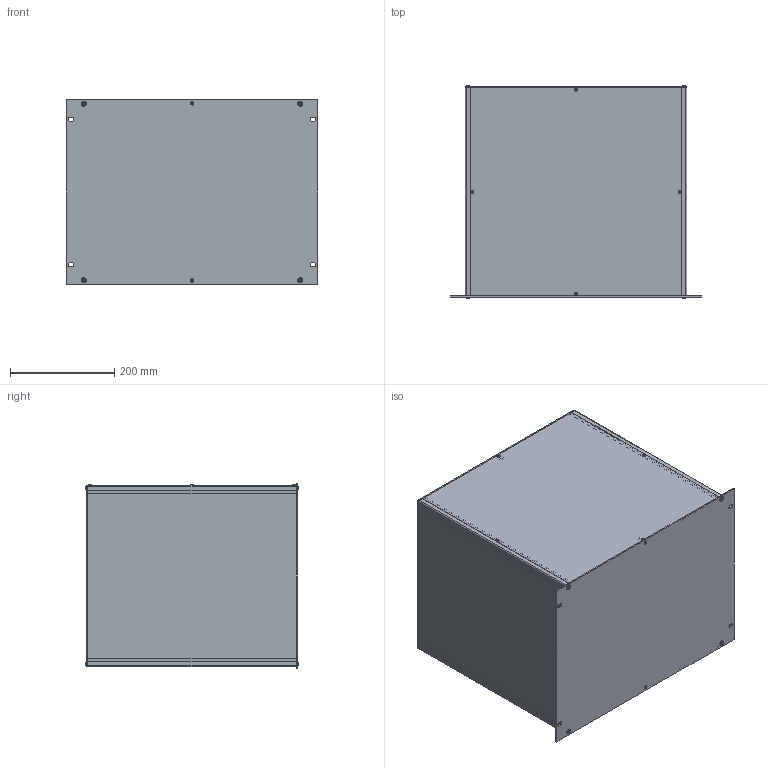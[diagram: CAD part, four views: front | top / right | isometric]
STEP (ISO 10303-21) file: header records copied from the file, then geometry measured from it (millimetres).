
FILE_DESCRIPTION(/* description */ (''),/* implementation_level */ '2;1');
FILE_NAME(/* name */ '//diskstation/Kunden/Gehäuse/Gehäuse/8HE/step/19 Zoll 8HE Rack Gehäuse Tiefe-400.step',/* time_stamp */ '2022-02-17T17:15:50+01:00',/* author */ (''),/* organization */ (''),/* preprocessor_version */ 'ST-DEVELOPER v18.1',/* originating_system */ 'Autodesk Translation Framework v10.10.0.1391',/* authorisation */ '');
FILE_SCHEMA (('AUTOMOTIVE_DESIGN { 1 0 10303 214 3 1 1 }'));
Length unit declared in the file: millimetre
Products named in the file (28): 8HE Gehäuse mit parametern; Gehäuse; Gehäuseprofil 1 unten links; Gehäuseprofil 2 oben rechts; Gehäuseprofil 1 unten rechts; Gehäuseprofil 2 oben links; Rückplatte; Deckel; Seitenteil links; Seitenteil rechts; Bodenplatte; Montageklotz Front/Deckel; Montageklotz Front/Boden; Montageklotz Rück/Deckel; Montageklotz Rück/Boden; Gewindestreifen; Frontplatte; Schrauben M5; Schraube Front; Schraube Front (1); Schraube Front (2); Schraube Front (3); Schraube Rück (1); Schraube Rück; Schraube Rück (2); Schraube Rück (3); Schrauben M3; HI_Senkschraube DIN 965 A v2 M3x5 24677.030.005(High)
Assembly tree (37 placements, depth 3):
  8HE Gehäuse mit parametern
    Gehäuse
      Gehäuseprofil 1 unten links
      Gehäuseprofil 2 oben rechts
      Gehäuseprofil 1 unten rechts
      Gehäuseprofil 2 oben links
      Rückplatte
      Deckel
      Seitenteil links
      Seitenteil rechts
      Bodenplatte
      Montageklotz Front/Deckel
      Montageklotz Front/Boden
      Montageklotz Rück/Deckel
      Montageklotz Rück/Boden
      Gewindestreifen  x2
    Frontplatte
    Schrauben M5
      Schraube Front
      Schraube Front (1)
      Schraube Front (2)
      Schraube Front (3)
      Schraube Rück (1)
      Schraube Rück
      Schraube Rück (2)
      Schraube Rück (3)
    Schrauben M3
      HI_Senkschraube DIN 965 A v2 M3x5 24677.030.005(High)  x10
Bounding box: 483 x 408.2 x 354.8 mm (x, y, z)
Volume: 2353150 mm3; surface area: 2005711.6 mm2
Topology: 34 solids, 34 shells, 914 faces, 2256 edges, 1410 vertices
Faces by surface type: cylinder 392, plane 342, cone 164, torus 8, bspline 8
Full cylindrical faces by diameter (mm): 2.529 x150, 3 x10, 3.2 x10, 4.234 x40, 5 x8, 5.2 x4, 5.3 x8, 5.6 x10, 9.5 x8
Entity records: 18015 total; most frequent: CARTESIAN_POINT 3258, DIRECTION 3030, ORIENTED_EDGE 2670, EDGE_CURVE 1335, AXIS2_PLACEMENT_3D 1150, VERTEX_POINT 838, EDGE_LOOP 821, LINE 730
